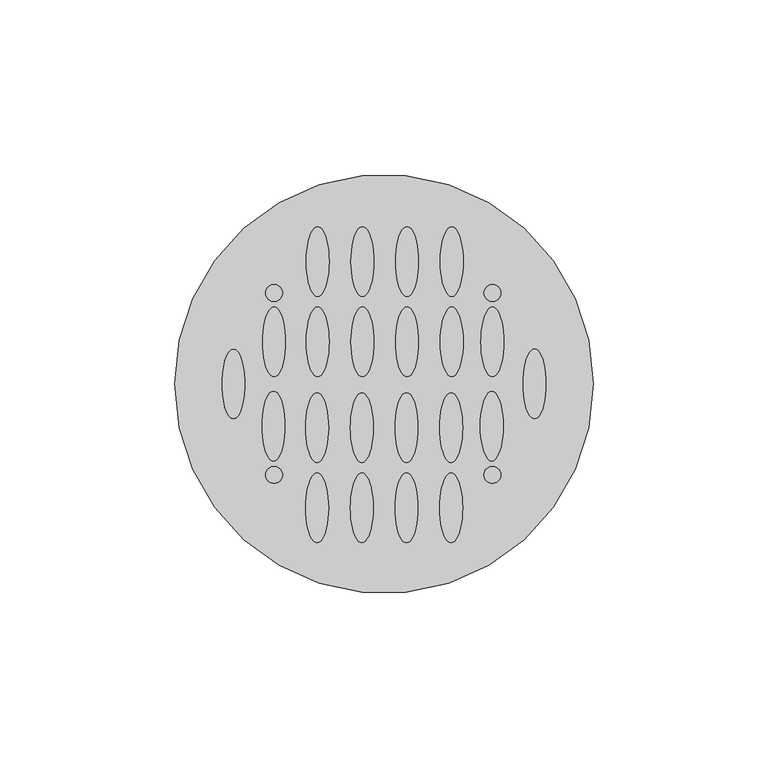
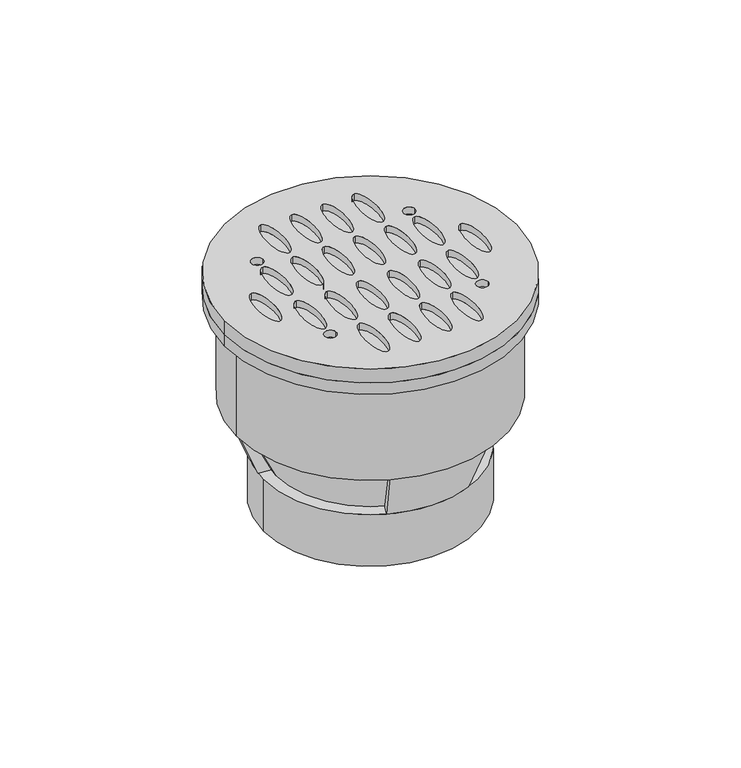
"""IFC4 building model written with IfcOpenShell, lengths in millimetres: pipe fitting geometry, AmancoWavin_Unionesdetubería_SanitarioPVCColaderaInstaRex : Cementar 110 mm."""

from ifc_helpers import new_model, si_unit, point, frame, origin, origin_with_axes, origin_2d, place, context, project, spatial, polyline, circle_curve, ellipse_curve, trimmed, segment, composite_curve, outline, extrude, source, transform, mapped, element, save
from ifc_brep_helpers import plane_surface, cylinder_surface, revolved_surface, extruded_surface, advanced_brep


def pipe_fitting_10ac5c91(model_context):
    return source(origin(), model_context, "Body", "SolidModel", [
        advanced_brep(
        [(-60.0, 0.0, 5.0), (60.0, 0.0, 5.0), (-60.0, 0.0, 11.0), (60.0, 0.0, 11.0), (-43.125, 10.0, 11.0), (-43.125, -10.0, 11.0), (-31.4848922, 22.0632684, 11.0), (-31.4848922, 2.0632684, 11.0), (-31.6489621, -2.0699379, 11.0), (-31.6489621, -22.0699379, 11.0), (-29.0574539, 26.0632635, 11.0), (-33.8998162, 26.0632635, 11.0), (-29.068906, -26.0667815, 11.0), (-33.9112683, -26.0667815, 11.0), (-18.9848922, 22.0632684, 11.0), (-18.9848922, 2.0632684, 11.0), (-19.1489621, -2.5, 11.0), (-19.1489621, -22.5, 11.0), (-18.9848922, 45.0632684, 11.0), (-18.9848922, 25.0632684, 11.0), (-19.1489621, -25.5, 11.0), (-19.1489621, -45.5, 11.0), (-6.1848922, 22.0632684, 11.0), (-6.1848922, 2.0632684, 11.0), (-6.3489621, -2.5, 11.0), (-6.3489621, -22.5, 11.0), (-6.1848922, 45.0632684, 11.0), (-6.1848922, 25.0632684, 11.0), (-6.3489621, -25.5, 11.0), (-6.3489621, -45.5, 11.0), (6.6151078, 22.0632684, 11.0), (6.6151078, 2.0632684, 11.0), (6.4510379, -2.5, 11.0), (6.4510379, -22.5, 11.0), (6.6151078, 45.0632684, 11.0), (6.6151078, 25.0632684, 11.0), (6.4510379, -25.5, 11.0), (6.4510379, -45.5, 11.0), (19.4151078, 22.0632684, 11.0), (19.4151078, 2.0632684, 11.0), (19.2510379, -2.5, 11.0), (19.2510379, -22.5, 11.0), (19.4151078, 45.0632684, 11.0), (19.4151078, 25.0632684, 11.0), (19.2510379, -25.5, 11.0), (19.2510379, -45.5, 11.0), (31.0501776, 22.0632684, 11.0), (31.0501776, 2.0632684, 11.0), (30.8861078, -2.0699379, 11.0), (30.8861078, -22.0699379, 11.0), (33.477616, 26.0632635, 11.0), (28.6352536, 26.0632635, 11.0), (33.4661638, -26.0667815, 11.0), (28.6238015, -26.0667815, 11.0), (43.1436396, 10.0, 11.0), (43.1436396, -10.0, 11.0), (-43.125, -10.0, 7.9881592), (-43.125, 10.0, 7.9881592), (-31.4848922, 2.0632684, 7.9881592), (-31.4848922, 22.0632684, 7.9881592), (-31.6489621, -22.0699379, 7.9881592), (-31.6489621, -2.0699379, 7.9881592), (-33.8998162, 26.0632635, 7.9881592), (-29.0574539, 26.0632635, 7.9881592), (-33.9112683, -26.0667815, 7.9881592), (-29.068906, -26.0667815, 7.9881592), (-18.9848922, 2.0632684, 7.9881592), (-18.9848922, 22.0632684, 7.9881592), (-19.1489621, -22.5, 7.9881592), (-19.1489621, -2.5, 7.9881592), (-18.9848922, 25.0632684, 7.9881592), (-18.9848922, 45.0632684, 7.9881592), (-19.1489621, -45.5, 7.9881592), (-19.1489621, -25.5, 7.9881592), (-6.1848922, 2.0632684, 7.9881592), (-6.1848922, 22.0632684, 7.9881592), (-6.3489621, -22.5, 7.9881592), (-6.3489621, -2.5, 7.9881592), (-6.1848922, 25.0632684, 7.9881592), (-6.1848922, 45.0632684, 7.9881592), (-6.3489621, -45.5, 7.9881592), (-6.3489621, -25.5, 7.9881592), (6.6151078, 2.0632684, 7.9881592), (6.6151078, 22.0632684, 7.9881592), (6.4510379, -22.5, 7.9881592), (6.4510379, -2.5, 7.9881592), (6.6151078, 25.0632684, 7.9881592), (6.6151078, 45.0632684, 7.9881592), (6.4510379, -45.5, 7.9881592), (6.4510379, -25.5, 7.9881592), (19.4151078, 2.0632684, 7.9881592), (19.4151078, 22.0632684, 7.9881592), (19.2510379, -22.5, 7.9881592), (19.2510379, -2.5, 7.9881592), (19.4151078, 25.0632684, 7.9881592), (19.4151078, 45.0632684, 7.9881592), (19.2510379, -45.5, 7.9881592), (19.2510379, -25.5, 7.9881592), (31.0501776, 2.0632684, 7.9881592), (31.0501776, 22.0632684, 7.9881592), (30.8861078, -22.0699379, 7.9881592), (30.8861078, -2.0699379, 7.9881592), (28.6352536, 26.0632635, 7.9881592), (33.477616, 26.0632635, 7.9881592), (28.6238015, -26.0667815, 7.9881592), (33.4661638, -26.0667815, 7.9881592), (43.1436396, -10.0, 7.9881592), (43.1436396, 10.0, 7.9881592)],
        [
            (0, 1, circle_curve(frame((0.0, 0.0, 5.0), z_axis=(0.0, 0.0, -1.0), x_axis=(1.0, 0.0, 0.0)), 60.0)),
            (1, 0, circle_curve(frame((0.0, 0.0, 5.0), z_axis=(0.0, 0.0, -1.0), x_axis=(1.0, 0.0, 0.0)), 60.0)),
            (2, 3, circle_curve(frame((0.0, 0.0, 11.0), z_axis=(0.0, 0.0, 1.0), x_axis=(1.0, 0.0, 0.0)), 60.0)),
            (3, 2, circle_curve(frame((0.0, 0.0, 11.0), z_axis=(0.0, 0.0, 1.0), x_axis=(1.0, 0.0, 0.0)), 60.0)),
            (4, 5, ellipse_curve(frame((-43.125, 0.0, 11.0), z_axis=(0.0, 0.0, -1.0), x_axis=(0.0, 1.0, 0.0)), 10.0, 3.2735089)),
            (5, 4, ellipse_curve(frame((-43.125, 0.0, 11.0), z_axis=(0.0, 0.0, -1.0), x_axis=(0.0, 1.0, 0.0)), 10.0, 3.2735089)),
            (6, 7, ellipse_curve(frame((-31.4848922, 12.0632684, 11.0), z_axis=(0.0, 0.0, -1.0), x_axis=(0.0, 1.0, 0.0)), 10.0, 3.2735089)),
            (7, 6, ellipse_curve(frame((-31.4848922, 12.0632684, 11.0), z_axis=(0.0, 0.0, -1.0), x_axis=(0.0, 1.0, 0.0)), 10.0, 3.2735089)),
            (8, 9, ellipse_curve(frame((-31.6489621, -12.0699379, 11.0), z_axis=(0.0, 0.0, -1.0), x_axis=(0.0, 1.0, 0.0)), 10.0, 3.2735089)),
            (9, 8, ellipse_curve(frame((-31.6489621, -12.0699379, 11.0), z_axis=(0.0, 0.0, -1.0), x_axis=(0.0, 1.0, 0.0)), 10.0, 3.2735089)),
            (10, 11, circle_curve(frame((-31.478635, 26.0632635, 11.0), z_axis=(0.0, 0.0, -1.0), x_axis=(1.0, 0.0, 0.0)), 2.4211812)),
            (11, 10, circle_curve(frame((-31.478635, 26.0632635, 11.0), z_axis=(0.0, 0.0, -1.0), x_axis=(1.0, 0.0, 0.0)), 2.4211812)),
            (12, 13, circle_curve(frame((-31.4900871, -26.0667815, 11.0), z_axis=(0.0, 0.0, -1.0), x_axis=(1.0, 0.0, 0.0)), 2.4211812)),
            (13, 12, circle_curve(frame((-31.4900871, -26.0667815, 11.0), z_axis=(0.0, 0.0, -1.0), x_axis=(1.0, 0.0, 0.0)), 2.4211812)),
            (14, 15, ellipse_curve(frame((-18.9848922, 12.0632684, 11.0), z_axis=(0.0, 0.0, -1.0), x_axis=(0.0, 1.0, 0.0)), 10.0, 3.2735089)),
            (15, 14, ellipse_curve(frame((-18.9848922, 12.0632684, 11.0), z_axis=(0.0, 0.0, -1.0), x_axis=(0.0, 1.0, 0.0)), 10.0, 3.2735089)),
            (16, 17, ellipse_curve(frame((-19.1489621, -12.5, 11.0), z_axis=(0.0, 0.0, -1.0), x_axis=(0.0, 1.0, 0.0)), 10.0, 3.2735089)),
            (17, 16, ellipse_curve(frame((-19.1489621, -12.5, 11.0), z_axis=(0.0, 0.0, -1.0), x_axis=(0.0, 1.0, 0.0)), 10.0, 3.2735089)),
            (18, 19, ellipse_curve(frame((-18.9848922, 35.0632684, 11.0), z_axis=(0.0, 0.0, -1.0), x_axis=(0.0, 1.0, 0.0)), 10.0, 3.2735089)),
            (19, 18, ellipse_curve(frame((-18.9848922, 35.0632684, 11.0), z_axis=(0.0, 0.0, -1.0), x_axis=(0.0, 1.0, 0.0)), 10.0, 3.2735089)),
            (20, 21, ellipse_curve(frame((-19.1489621, -35.5, 11.0), z_axis=(0.0, 0.0, -1.0), x_axis=(0.0, 1.0, 0.0)), 10.0, 3.2735089)),
            (21, 20, ellipse_curve(frame((-19.1489621, -35.5, 11.0), z_axis=(0.0, 0.0, -1.0), x_axis=(0.0, 1.0, 0.0)), 10.0, 3.2735089)),
            (22, 23, ellipse_curve(frame((-6.1848922, 12.0632684, 11.0), z_axis=(0.0, 0.0, -1.0), x_axis=(0.0, 1.0, 0.0)), 10.0, 3.2735089)),
            (23, 22, ellipse_curve(frame((-6.1848922, 12.0632684, 11.0), z_axis=(0.0, 0.0, -1.0), x_axis=(0.0, 1.0, 0.0)), 10.0, 3.2735089)),
            (24, 25, ellipse_curve(frame((-6.3489621, -12.5, 11.0), z_axis=(0.0, 0.0, -1.0), x_axis=(0.0, 1.0, 0.0)), 10.0, 3.2735089)),
            (25, 24, ellipse_curve(frame((-6.3489621, -12.5, 11.0), z_axis=(0.0, 0.0, -1.0), x_axis=(0.0, 1.0, 0.0)), 10.0, 3.2735089)),
            (26, 27, ellipse_curve(frame((-6.1848922, 35.0632684, 11.0), z_axis=(0.0, 0.0, -1.0), x_axis=(0.0, 1.0, 0.0)), 10.0, 3.2735089)),
            (27, 26, ellipse_curve(frame((-6.1848922, 35.0632684, 11.0), z_axis=(0.0, 0.0, -1.0), x_axis=(0.0, 1.0, 0.0)), 10.0, 3.2735089)),
            (28, 29, ellipse_curve(frame((-6.3489621, -35.5, 11.0), z_axis=(0.0, 0.0, -1.0), x_axis=(0.0, 1.0, 0.0)), 10.0, 3.2735089)),
            (29, 28, ellipse_curve(frame((-6.3489621, -35.5, 11.0), z_axis=(0.0, 0.0, -1.0), x_axis=(0.0, 1.0, 0.0)), 10.0, 3.2735089)),
            (30, 31, ellipse_curve(frame((6.6151078, 12.0632684, 11.0), z_axis=(0.0, 0.0, -1.0), x_axis=(0.0, 1.0, 0.0)), 10.0, 3.2735089)),
            (31, 30, ellipse_curve(frame((6.6151078, 12.0632684, 11.0), z_axis=(0.0, 0.0, -1.0), x_axis=(0.0, 1.0, 0.0)), 10.0, 3.2735089)),
            (32, 33, ellipse_curve(frame((6.4510379, -12.5, 11.0), z_axis=(0.0, 0.0, -1.0), x_axis=(0.0, 1.0, 0.0)), 10.0, 3.2735089)),
            (33, 32, ellipse_curve(frame((6.4510379, -12.5, 11.0), z_axis=(0.0, 0.0, -1.0), x_axis=(0.0, 1.0, 0.0)), 10.0, 3.2735089)),
            (34, 35, ellipse_curve(frame((6.6151078, 35.0632684, 11.0), z_axis=(0.0, 0.0, -1.0), x_axis=(0.0, 1.0, 0.0)), 10.0, 3.2735089)),
            (35, 34, ellipse_curve(frame((6.6151078, 35.0632684, 11.0), z_axis=(0.0, 0.0, -1.0), x_axis=(0.0, 1.0, 0.0)), 10.0, 3.2735089)),
            (36, 37, ellipse_curve(frame((6.4510379, -35.5, 11.0), z_axis=(0.0, 0.0, -1.0), x_axis=(0.0, 1.0, 0.0)), 10.0, 3.2735089)),
            (37, 36, ellipse_curve(frame((6.4510379, -35.5, 11.0), z_axis=(0.0, 0.0, -1.0), x_axis=(0.0, 1.0, 0.0)), 10.0, 3.2735089)),
            (38, 39, ellipse_curve(frame((19.4151078, 12.0632684, 11.0), z_axis=(0.0, 0.0, -1.0), x_axis=(0.0, 1.0, 0.0)), 10.0, 3.2735089)),
            (39, 38, ellipse_curve(frame((19.4151078, 12.0632684, 11.0), z_axis=(0.0, 0.0, -1.0), x_axis=(0.0, 1.0, 0.0)), 10.0, 3.2735089)),
            (40, 41, ellipse_curve(frame((19.2510379, -12.5, 11.0), z_axis=(0.0, 0.0, -1.0), x_axis=(0.0, 1.0, 0.0)), 10.0, 3.2735089)),
            (41, 40, ellipse_curve(frame((19.2510379, -12.5, 11.0), z_axis=(0.0, 0.0, -1.0), x_axis=(0.0, 1.0, 0.0)), 10.0, 3.2735089)),
            (42, 43, ellipse_curve(frame((19.4151078, 35.0632684, 11.0), z_axis=(0.0, 0.0, -1.0), x_axis=(0.0, 1.0, 0.0)), 10.0, 3.2735089)),
            (43, 42, ellipse_curve(frame((19.4151078, 35.0632684, 11.0), z_axis=(0.0, 0.0, -1.0), x_axis=(0.0, 1.0, 0.0)), 10.0, 3.2735089)),
            (44, 45, ellipse_curve(frame((19.2510379, -35.5, 11.0), z_axis=(0.0, 0.0, -1.0), x_axis=(0.0, 1.0, 0.0)), 10.0, 3.2735089)),
            (45, 44, ellipse_curve(frame((19.2510379, -35.5, 11.0), z_axis=(0.0, 0.0, -1.0), x_axis=(0.0, 1.0, 0.0)), 10.0, 3.2735089)),
            (46, 47, ellipse_curve(frame((31.0501776, 12.0632684, 11.0), z_axis=(0.0, 0.0, -1.0), x_axis=(0.0, 1.0, 0.0)), 10.0, 3.2735089)),
            (47, 46, ellipse_curve(frame((31.0501776, 12.0632684, 11.0), z_axis=(0.0, 0.0, -1.0), x_axis=(0.0, 1.0, 0.0)), 10.0, 3.2735089)),
            (48, 49, ellipse_curve(frame((30.8861078, -12.0699379, 11.0), z_axis=(0.0, 0.0, -1.0), x_axis=(0.0, 1.0, 0.0)), 10.0, 3.2735089)),
            (49, 48, ellipse_curve(frame((30.8861078, -12.0699379, 11.0), z_axis=(0.0, 0.0, -1.0), x_axis=(0.0, 1.0, 0.0)), 10.0, 3.2735089)),
            (50, 51, circle_curve(frame((31.0564348, 26.0632635, 11.0), z_axis=(0.0, 0.0, -1.0), x_axis=(1.0, 0.0, 0.0)), 2.4211812)),
            (51, 50, circle_curve(frame((31.0564348, 26.0632635, 11.0), z_axis=(0.0, 0.0, -1.0), x_axis=(1.0, 0.0, 0.0)), 2.4211812)),
            (52, 53, circle_curve(frame((31.0449827, -26.0667815, 11.0), z_axis=(0.0, 0.0, -1.0), x_axis=(1.0, 0.0, 0.0)), 2.4211812)),
            (53, 52, circle_curve(frame((31.0449827, -26.0667815, 11.0), z_axis=(0.0, 0.0, -1.0), x_axis=(1.0, 0.0, 0.0)), 2.4211812)),
            (54, 55, ellipse_curve(frame((43.1436396, 0.0, 11.0), z_axis=(0.0, 0.0, -1.0), x_axis=(0.0, 1.0, 0.0)), 10.0, 3.2735089)),
            (55, 54, ellipse_curve(frame((43.1436396, 0.0, 11.0), z_axis=(0.0, 0.0, -1.0), x_axis=(0.0, 1.0, 0.0)), 10.0, 3.2735089)),
            (1, 3),
            (2, 0),
            (56, 57, ellipse_curve(frame((-43.125, 0.0, 7.9881592), z_axis=(0.0, 0.0, 1.0), x_axis=(0.0, 1.0, 0.0)), 10.0, 3.2735089)),
            (57, 56, ellipse_curve(frame((-43.125, 0.0, 7.9881592), z_axis=(0.0, 0.0, 1.0), x_axis=(0.0, 1.0, 0.0)), 10.0, 3.2735089)),
            (58, 59, ellipse_curve(frame((-31.4848922, 12.0632684, 7.9881592), z_axis=(0.0, 0.0, 1.0), x_axis=(0.0, 1.0, 0.0)), 10.0, 3.2735089)),
            (59, 58, ellipse_curve(frame((-31.4848922, 12.0632684, 7.9881592), z_axis=(0.0, 0.0, 1.0), x_axis=(0.0, 1.0, 0.0)), 10.0, 3.2735089)),
            (60, 61, ellipse_curve(frame((-31.6489621, -12.0699379, 7.9881592), z_axis=(0.0, 0.0, 1.0), x_axis=(0.0, 1.0, 0.0)), 10.0, 3.2735089)),
            (61, 60, ellipse_curve(frame((-31.6489621, -12.0699379, 7.9881592), z_axis=(0.0, 0.0, 1.0), x_axis=(0.0, 1.0, 0.0)), 10.0, 3.2735089)),
            (62, 63, circle_curve(frame((-31.478635, 26.0632635, 7.9881592), z_axis=(0.0, 0.0, 1.0), x_axis=(1.0, 0.0, 0.0)), 2.4211812)),
            (63, 62, circle_curve(frame((-31.478635, 26.0632635, 7.9881592), z_axis=(0.0, 0.0, 1.0), x_axis=(1.0, 0.0, 0.0)), 2.4211812)),
            (64, 65, circle_curve(frame((-31.4900871, -26.0667815, 7.9881592), z_axis=(0.0, 0.0, 1.0), x_axis=(1.0, 0.0, 0.0)), 2.4211812)),
            (65, 64, circle_curve(frame((-31.4900871, -26.0667815, 7.9881592), z_axis=(0.0, 0.0, 1.0), x_axis=(1.0, 0.0, 0.0)), 2.4211812)),
            (66, 67, ellipse_curve(frame((-18.9848922, 12.0632684, 7.9881592), z_axis=(0.0, 0.0, 1.0), x_axis=(0.0, 1.0, 0.0)), 10.0, 3.2735089)),
            (67, 66, ellipse_curve(frame((-18.9848922, 12.0632684, 7.9881592), z_axis=(0.0, 0.0, 1.0), x_axis=(0.0, 1.0, 0.0)), 10.0, 3.2735089)),
            (68, 69, ellipse_curve(frame((-19.1489621, -12.5, 7.9881592), z_axis=(0.0, 0.0, 1.0), x_axis=(0.0, 1.0, 0.0)), 10.0, 3.2735089)),
            (69, 68, ellipse_curve(frame((-19.1489621, -12.5, 7.9881592), z_axis=(0.0, 0.0, 1.0), x_axis=(0.0, 1.0, 0.0)), 10.0, 3.2735089)),
            (70, 71, ellipse_curve(frame((-18.9848922, 35.0632684, 7.9881592), z_axis=(0.0, 0.0, 1.0), x_axis=(0.0, 1.0, 0.0)), 10.0, 3.2735089)),
            (71, 70, ellipse_curve(frame((-18.9848922, 35.0632684, 7.9881592), z_axis=(0.0, 0.0, 1.0), x_axis=(0.0, 1.0, 0.0)), 10.0, 3.2735089)),
            (72, 73, ellipse_curve(frame((-19.1489621, -35.5, 7.9881592), z_axis=(0.0, 0.0, 1.0), x_axis=(0.0, 1.0, 0.0)), 10.0, 3.2735089)),
            (73, 72, ellipse_curve(frame((-19.1489621, -35.5, 7.9881592), z_axis=(0.0, 0.0, 1.0), x_axis=(0.0, 1.0, 0.0)), 10.0, 3.2735089)),
            (74, 75, ellipse_curve(frame((-6.1848922, 12.0632684, 7.9881592), z_axis=(0.0, 0.0, 1.0), x_axis=(0.0, 1.0, 0.0)), 10.0, 3.2735089)),
            (75, 74, ellipse_curve(frame((-6.1848922, 12.0632684, 7.9881592), z_axis=(0.0, 0.0, 1.0), x_axis=(0.0, 1.0, 0.0)), 10.0, 3.2735089)),
            (76, 77, ellipse_curve(frame((-6.3489621, -12.5, 7.9881592), z_axis=(0.0, 0.0, 1.0), x_axis=(0.0, 1.0, 0.0)), 10.0, 3.2735089)),
            (77, 76, ellipse_curve(frame((-6.3489621, -12.5, 7.9881592), z_axis=(0.0, 0.0, 1.0), x_axis=(0.0, 1.0, 0.0)), 10.0, 3.2735089)),
            (78, 79, ellipse_curve(frame((-6.1848922, 35.0632684, 7.9881592), z_axis=(0.0, 0.0, 1.0), x_axis=(0.0, 1.0, 0.0)), 10.0, 3.2735089)),
            (79, 78, ellipse_curve(frame((-6.1848922, 35.0632684, 7.9881592), z_axis=(0.0, 0.0, 1.0), x_axis=(0.0, 1.0, 0.0)), 10.0, 3.2735089)),
            (80, 81, ellipse_curve(frame((-6.3489621, -35.5, 7.9881592), z_axis=(0.0, 0.0, 1.0), x_axis=(0.0, 1.0, 0.0)), 10.0, 3.2735089)),
            (81, 80, ellipse_curve(frame((-6.3489621, -35.5, 7.9881592), z_axis=(0.0, 0.0, 1.0), x_axis=(0.0, 1.0, 0.0)), 10.0, 3.2735089)),
            (82, 83, ellipse_curve(frame((6.6151078, 12.0632684, 7.9881592), z_axis=(0.0, 0.0, 1.0), x_axis=(0.0, 1.0, 0.0)), 10.0, 3.2735089)),
            (83, 82, ellipse_curve(frame((6.6151078, 12.0632684, 7.9881592), z_axis=(0.0, 0.0, 1.0), x_axis=(0.0, 1.0, 0.0)), 10.0, 3.2735089)),
            (84, 85, ellipse_curve(frame((6.4510379, -12.5, 7.9881592), z_axis=(0.0, 0.0, 1.0), x_axis=(0.0, 1.0, 0.0)), 10.0, 3.2735089)),
            (85, 84, ellipse_curve(frame((6.4510379, -12.5, 7.9881592), z_axis=(0.0, 0.0, 1.0), x_axis=(0.0, 1.0, 0.0)), 10.0, 3.2735089)),
            (86, 87, ellipse_curve(frame((6.6151078, 35.0632684, 7.9881592), z_axis=(0.0, 0.0, 1.0), x_axis=(0.0, 1.0, 0.0)), 10.0, 3.2735089)),
            (87, 86, ellipse_curve(frame((6.6151078, 35.0632684, 7.9881592), z_axis=(0.0, 0.0, 1.0), x_axis=(0.0, 1.0, 0.0)), 10.0, 3.2735089)),
            (88, 89, ellipse_curve(frame((6.4510379, -35.5, 7.9881592), z_axis=(0.0, 0.0, 1.0), x_axis=(0.0, 1.0, 0.0)), 10.0, 3.2735089)),
            (89, 88, ellipse_curve(frame((6.4510379, -35.5, 7.9881592), z_axis=(0.0, 0.0, 1.0), x_axis=(0.0, 1.0, 0.0)), 10.0, 3.2735089)),
            (90, 91, ellipse_curve(frame((19.4151078, 12.0632684, 7.9881592), z_axis=(0.0, 0.0, 1.0), x_axis=(0.0, 1.0, 0.0)), 10.0, 3.2735089)),
            (91, 90, ellipse_curve(frame((19.4151078, 12.0632684, 7.9881592), z_axis=(0.0, 0.0, 1.0), x_axis=(0.0, 1.0, 0.0)), 10.0, 3.2735089)),
            (92, 93, ellipse_curve(frame((19.2510379, -12.5, 7.9881592), z_axis=(0.0, 0.0, 1.0), x_axis=(0.0, 1.0, 0.0)), 10.0, 3.2735089)),
            (93, 92, ellipse_curve(frame((19.2510379, -12.5, 7.9881592), z_axis=(0.0, 0.0, 1.0), x_axis=(0.0, 1.0, 0.0)), 10.0, 3.2735089)),
            (94, 95, ellipse_curve(frame((19.4151078, 35.0632684, 7.9881592), z_axis=(0.0, 0.0, 1.0), x_axis=(0.0, 1.0, 0.0)), 10.0, 3.2735089)),
            (95, 94, ellipse_curve(frame((19.4151078, 35.0632684, 7.9881592), z_axis=(0.0, 0.0, 1.0), x_axis=(0.0, 1.0, 0.0)), 10.0, 3.2735089)),
            (96, 97, ellipse_curve(frame((19.2510379, -35.5, 7.9881592), z_axis=(0.0, 0.0, 1.0), x_axis=(0.0, 1.0, 0.0)), 10.0, 3.2735089)),
            (97, 96, ellipse_curve(frame((19.2510379, -35.5, 7.9881592), z_axis=(0.0, 0.0, 1.0), x_axis=(0.0, 1.0, 0.0)), 10.0, 3.2735089)),
            (98, 99, ellipse_curve(frame((31.0501776, 12.0632684, 7.9881592), z_axis=(0.0, 0.0, 1.0), x_axis=(0.0, 1.0, 0.0)), 10.0, 3.2735089)),
            (99, 98, ellipse_curve(frame((31.0501776, 12.0632684, 7.9881592), z_axis=(0.0, 0.0, 1.0), x_axis=(0.0, 1.0, 0.0)), 10.0, 3.2735089)),
            (100, 101, ellipse_curve(frame((30.8861078, -12.0699379, 7.9881592), z_axis=(0.0, 0.0, 1.0), x_axis=(0.0, 1.0, 0.0)), 10.0, 3.2735089)),
            (101, 100, ellipse_curve(frame((30.8861078, -12.0699379, 7.9881592), z_axis=(0.0, 0.0, 1.0), x_axis=(0.0, 1.0, 0.0)), 10.0, 3.2735089)),
            (102, 103, circle_curve(frame((31.0564348, 26.0632635, 7.9881592), z_axis=(0.0, 0.0, 1.0), x_axis=(1.0, 0.0, 0.0)), 2.4211812)),
            (103, 102, circle_curve(frame((31.0564348, 26.0632635, 7.9881592), z_axis=(0.0, 0.0, 1.0), x_axis=(1.0, 0.0, 0.0)), 2.4211812)),
            (104, 105, circle_curve(frame((31.0449827, -26.0667815, 7.9881592), z_axis=(0.0, 0.0, 1.0), x_axis=(1.0, 0.0, 0.0)), 2.4211812)),
            (105, 104, circle_curve(frame((31.0449827, -26.0667815, 7.9881592), z_axis=(0.0, 0.0, 1.0), x_axis=(1.0, 0.0, 0.0)), 2.4211812)),
            (106, 107, ellipse_curve(frame((43.1436396, 0.0, 7.9881592), z_axis=(0.0, 0.0, 1.0), x_axis=(0.0, 1.0, 0.0)), 10.0, 3.2735089)),
            (107, 106, ellipse_curve(frame((43.1436396, 0.0, 7.9881592), z_axis=(0.0, 0.0, 1.0), x_axis=(0.0, 1.0, 0.0)), 10.0, 3.2735089)),
            (56, 5),
            (4, 57),
            (58, 7),
            (6, 59),
            (60, 9),
            (8, 61),
            (62, 11),
            (10, 63),
            (64, 13),
            (12, 65),
            (66, 15),
            (14, 67),
            (68, 17),
            (16, 69),
            (70, 19),
            (18, 71),
            (72, 21),
            (20, 73),
            (74, 23),
            (22, 75),
            (76, 25),
            (24, 77),
            (78, 27),
            (26, 79),
            (80, 29),
            (28, 81),
            (82, 31),
            (30, 83),
            (84, 33),
            (32, 85),
            (86, 35),
            (34, 87),
            (88, 37),
            (36, 89),
            (90, 39),
            (38, 91),
            (92, 41),
            (40, 93),
            (94, 43),
            (42, 95),
            (96, 45),
            (44, 97),
            (98, 47),
            (46, 99),
            (100, 49),
            (48, 101),
            (102, 51),
            (50, 103),
            (104, 53),
            (52, 105),
            (106, 55),
            (54, 107),
        ],
        [
            plane_surface(frame((60.0, 0.0, 5.0), z_axis=(0.0, 0.0, -1.0), x_axis=(0.0, -1.0, 0.0))),
            plane_surface(frame((60.0, 0.0, 11.0), z_axis=(0.0, 0.0, 1.0), x_axis=(0.0, 1.0, 0.0))),
            cylinder_surface(frame((0.0, 0.0, 5.0), z_axis=(0.0, 0.0, 1.0), x_axis=(1.0, 0.0, 0.0)), 60.0),
            plane_surface(frame((-43.125, 10.0, 7.9881592), z_axis=(0.0, 0.0, 1.0), x_axis=(1.0, 0.0, 0.0))),
            extruded_surface(trimmed(ellipse_curve(frame((-43.125, 0.0, 7.9881592), z_axis=(0.0, 0.0, 1.0), x_axis=(0.0, 1.0, 0.0)), 10.0, 3.2735089), [point((-43.125, -10.0, 7.9881592))], [point((-43.125, 10.0, 7.9881592))], True, "CARTESIAN"), (0.0, 0.0, -3.0118408), 3.0118408),
            extruded_surface(trimmed(ellipse_curve(frame((-43.125, 0.0, 7.9881592), z_axis=(0.0, 0.0, 1.0), x_axis=(0.0, 1.0, 0.0)), 10.0, 3.2735089), [point((-43.125, 10.0, 7.9881592))], [point((-43.125, -10.0, 7.9881592))], True, "CARTESIAN"), (0.0, 0.0, -3.0118408), 3.0118408),
            extruded_surface(trimmed(ellipse_curve(frame((-31.4848922, 12.0632684, 11.0), z_axis=(0.0, 0.0, 1.0), x_axis=(0.0, 1.0, 0.0)), 10.0, 3.2735089), [point((-31.4848922, 2.0632684, 11.0))], [point((-31.4848922, 22.0632684, 11.0))], True, "CARTESIAN"), (0.0, 0.0, -3.0118408), 3.0118408),
            extruded_surface(trimmed(ellipse_curve(frame((-31.4848922, 12.0632684, 11.0), z_axis=(0.0, 0.0, 1.0), x_axis=(0.0, 1.0, 0.0)), 10.0, 3.2735089), [point((-31.4848922, 22.0632684, 11.0))], [point((-31.4848922, 2.0632684, 11.0))], True, "CARTESIAN"), (0.0, 0.0, -3.0118408), 3.0118408),
            extruded_surface(trimmed(ellipse_curve(frame((-31.6489621, -12.0699379, 11.0), z_axis=(0.0, 0.0, 1.0), x_axis=(0.0, 1.0, 0.0)), 10.0, 3.2735089), [point((-31.6489621, -22.0699379, 11.0))], [point((-31.6489621, -2.0699379, 11.0))], True, "CARTESIAN"), (0.0, 0.0, -3.0118408), 3.0118408),
            extruded_surface(trimmed(ellipse_curve(frame((-31.6489621, -12.0699379, 11.0), z_axis=(0.0, 0.0, 1.0), x_axis=(0.0, 1.0, 0.0)), 10.0, 3.2735089), [point((-31.6489621, -2.0699379, 11.0))], [point((-31.6489621, -22.0699379, 11.0))], True, "CARTESIAN"), (0.0, 0.0, -3.0118408), 3.0118408),
            revolved_surface(polyline([(-29.0574538, 26.0632635, 11.0), (-29.0574538, 26.0632635, 7.9881592)]), (-31.478635, 26.0632635, 11.0), (0.0, 0.0, 1.0)),
            revolved_surface(polyline([(-29.0689059, -26.0667815, 11.0), (-29.0689059, -26.0667815, 7.9881592)]), (-31.4900871, -26.0667815, 11.0), (0.0, 0.0, 1.0)),
            extruded_surface(trimmed(ellipse_curve(frame((-18.9848922, 12.0632684, 11.0), z_axis=(0.0, 0.0, 1.0), x_axis=(0.0, 1.0, 0.0)), 10.0, 3.2735089), [point((-18.9848922, 2.0632684, 11.0))], [point((-18.9848922, 22.0632684, 11.0))], True, "CARTESIAN"), (0.0, 0.0, -3.0118408), 3.0118408),
            extruded_surface(trimmed(ellipse_curve(frame((-18.9848922, 12.0632684, 11.0), z_axis=(0.0, 0.0, 1.0), x_axis=(0.0, 1.0, 0.0)), 10.0, 3.2735089), [point((-18.9848922, 22.0632684, 11.0))], [point((-18.9848922, 2.0632684, 11.0))], True, "CARTESIAN"), (0.0, 0.0, -3.0118408), 3.0118408),
            extruded_surface(trimmed(ellipse_curve(frame((-19.1489621, -12.5, 11.0), z_axis=(0.0, 0.0, 1.0), x_axis=(0.0, 1.0, 0.0)), 10.0, 3.2735089), [point((-19.1489621, -22.5, 11.0))], [point((-19.1489621, -2.5, 11.0))], True, "CARTESIAN"), (0.0, 0.0, -3.0118408), 3.0118408),
            extruded_surface(trimmed(ellipse_curve(frame((-19.1489621, -12.5, 11.0), z_axis=(0.0, 0.0, 1.0), x_axis=(0.0, 1.0, 0.0)), 10.0, 3.2735089), [point((-19.1489621, -2.5, 11.0))], [point((-19.1489621, -22.5, 11.0))], True, "CARTESIAN"), (0.0, 0.0, -3.0118408), 3.0118408),
            extruded_surface(trimmed(ellipse_curve(frame((-18.9848922, 35.0632684, 11.0), z_axis=(0.0, 0.0, 1.0), x_axis=(0.0, 1.0, 0.0)), 10.0, 3.2735089), [point((-18.9848922, 25.0632684, 11.0))], [point((-18.9848922, 45.0632684, 11.0))], True, "CARTESIAN"), (0.0, 0.0, -3.0118408), 3.0118408),
            extruded_surface(trimmed(ellipse_curve(frame((-18.9848922, 35.0632684, 11.0), z_axis=(0.0, 0.0, 1.0), x_axis=(0.0, 1.0, 0.0)), 10.0, 3.2735089), [point((-18.9848922, 45.0632684, 11.0))], [point((-18.9848922, 25.0632684, 11.0))], True, "CARTESIAN"), (0.0, 0.0, -3.0118408), 3.0118408),
            extruded_surface(trimmed(ellipse_curve(frame((-19.1489621, -35.5, 11.0), z_axis=(0.0, 0.0, 1.0), x_axis=(0.0, 1.0, 0.0)), 10.0, 3.2735089), [point((-19.1489621, -45.5, 11.0))], [point((-19.1489621, -25.5, 11.0))], True, "CARTESIAN"), (0.0, 0.0, -3.0118408), 3.0118408),
            extruded_surface(trimmed(ellipse_curve(frame((-19.1489621, -35.5, 11.0), z_axis=(0.0, 0.0, 1.0), x_axis=(0.0, 1.0, 0.0)), 10.0, 3.2735089), [point((-19.1489621, -25.5, 11.0))], [point((-19.1489621, -45.5, 11.0))], True, "CARTESIAN"), (0.0, 0.0, -3.0118408), 3.0118408),
            extruded_surface(trimmed(ellipse_curve(frame((-6.1848922, 12.0632684, 11.0), z_axis=(0.0, 0.0, 1.0), x_axis=(0.0, 1.0, 0.0)), 10.0, 3.2735089), [point((-6.1848922, 2.0632684, 11.0))], [point((-6.1848922, 22.0632684, 11.0))], True, "CARTESIAN"), (0.0, 0.0, -3.0118408), 3.0118408),
            extruded_surface(trimmed(ellipse_curve(frame((-6.1848922, 12.0632684, 11.0), z_axis=(0.0, 0.0, 1.0), x_axis=(0.0, 1.0, 0.0)), 10.0, 3.2735089), [point((-6.1848922, 22.0632684, 11.0))], [point((-6.1848922, 2.0632684, 11.0))], True, "CARTESIAN"), (0.0, 0.0, -3.0118408), 3.0118408),
            extruded_surface(trimmed(ellipse_curve(frame((-6.3489621, -12.5, 11.0), z_axis=(0.0, 0.0, 1.0), x_axis=(0.0, 1.0, 0.0)), 10.0, 3.2735089), [point((-6.3489621, -22.5, 11.0))], [point((-6.3489621, -2.5, 11.0))], True, "CARTESIAN"), (0.0, 0.0, -3.0118408), 3.0118408),
            extruded_surface(trimmed(ellipse_curve(frame((-6.3489621, -12.5, 11.0), z_axis=(0.0, 0.0, 1.0), x_axis=(0.0, 1.0, 0.0)), 10.0, 3.2735089), [point((-6.3489621, -2.5, 11.0))], [point((-6.3489621, -22.5, 11.0))], True, "CARTESIAN"), (0.0, 0.0, -3.0118408), 3.0118408),
            extruded_surface(trimmed(ellipse_curve(frame((-6.1848922, 35.0632684, 11.0), z_axis=(0.0, 0.0, 1.0), x_axis=(0.0, 1.0, 0.0)), 10.0, 3.2735089), [point((-6.1848922, 25.0632684, 11.0))], [point((-6.1848922, 45.0632684, 11.0))], True, "CARTESIAN"), (0.0, 0.0, -3.0118408), 3.0118408),
            extruded_surface(trimmed(ellipse_curve(frame((-6.1848922, 35.0632684, 11.0), z_axis=(0.0, 0.0, 1.0), x_axis=(0.0, 1.0, 0.0)), 10.0, 3.2735089), [point((-6.1848922, 45.0632684, 11.0))], [point((-6.1848922, 25.0632684, 11.0))], True, "CARTESIAN"), (0.0, 0.0, -3.0118408), 3.0118408),
            extruded_surface(trimmed(ellipse_curve(frame((-6.3489621, -35.5, 11.0), z_axis=(0.0, 0.0, 1.0), x_axis=(0.0, 1.0, 0.0)), 10.0, 3.2735089), [point((-6.3489621, -45.5, 11.0))], [point((-6.3489621, -25.5, 11.0))], True, "CARTESIAN"), (0.0, 0.0, -3.0118408), 3.0118408),
            extruded_surface(trimmed(ellipse_curve(frame((-6.3489621, -35.5, 11.0), z_axis=(0.0, 0.0, 1.0), x_axis=(0.0, 1.0, 0.0)), 10.0, 3.2735089), [point((-6.3489621, -25.5, 11.0))], [point((-6.3489621, -45.5, 11.0))], True, "CARTESIAN"), (0.0, 0.0, -3.0118408), 3.0118408),
            extruded_surface(trimmed(ellipse_curve(frame((6.6151078, 12.0632684, 11.0), z_axis=(0.0, 0.0, 1.0), x_axis=(0.0, 1.0, 0.0)), 10.0, 3.2735089), [point((6.6151078, 2.0632684, 11.0))], [point((6.6151078, 22.0632684, 11.0))], True, "CARTESIAN"), (0.0, 0.0, -3.0118408), 3.0118408),
            extruded_surface(trimmed(ellipse_curve(frame((6.6151078, 12.0632684, 11.0), z_axis=(0.0, 0.0, 1.0), x_axis=(0.0, 1.0, 0.0)), 10.0, 3.2735089), [point((6.6151078, 22.0632684, 11.0))], [point((6.6151078, 2.0632684, 11.0))], True, "CARTESIAN"), (0.0, 0.0, -3.0118408), 3.0118408),
            extruded_surface(trimmed(ellipse_curve(frame((6.4510379, -12.5, 11.0), z_axis=(0.0, 0.0, 1.0), x_axis=(0.0, 1.0, 0.0)), 10.0, 3.2735089), [point((6.4510379, -22.5, 11.0))], [point((6.4510379, -2.5, 11.0))], True, "CARTESIAN"), (0.0, 0.0, -3.0118408), 3.0118408),
            extruded_surface(trimmed(ellipse_curve(frame((6.4510379, -12.5, 11.0), z_axis=(0.0, 0.0, 1.0), x_axis=(0.0, 1.0, 0.0)), 10.0, 3.2735089), [point((6.4510379, -2.5, 11.0))], [point((6.4510379, -22.5, 11.0))], True, "CARTESIAN"), (0.0, 0.0, -3.0118408), 3.0118408),
            extruded_surface(trimmed(ellipse_curve(frame((6.6151078, 35.0632684, 11.0), z_axis=(0.0, 0.0, 1.0), x_axis=(0.0, 1.0, 0.0)), 10.0, 3.2735089), [point((6.6151078, 25.0632684, 11.0))], [point((6.6151078, 45.0632684, 11.0))], True, "CARTESIAN"), (0.0, 0.0, -3.0118408), 3.0118408),
            extruded_surface(trimmed(ellipse_curve(frame((6.6151078, 35.0632684, 11.0), z_axis=(0.0, 0.0, 1.0), x_axis=(0.0, 1.0, 0.0)), 10.0, 3.2735089), [point((6.6151078, 45.0632684, 11.0))], [point((6.6151078, 25.0632684, 11.0))], True, "CARTESIAN"), (0.0, 0.0, -3.0118408), 3.0118408),
            extruded_surface(trimmed(ellipse_curve(frame((6.4510379, -35.5, 11.0), z_axis=(0.0, 0.0, 1.0), x_axis=(0.0, 1.0, 0.0)), 10.0, 3.2735089), [point((6.4510379, -45.5, 11.0))], [point((6.4510379, -25.5, 11.0))], True, "CARTESIAN"), (0.0, 0.0, -3.0118408), 3.0118408),
            extruded_surface(trimmed(ellipse_curve(frame((6.4510379, -35.5, 11.0), z_axis=(0.0, 0.0, 1.0), x_axis=(0.0, 1.0, 0.0)), 10.0, 3.2735089), [point((6.4510379, -25.5, 11.0))], [point((6.4510379, -45.5, 11.0))], True, "CARTESIAN"), (0.0, 0.0, -3.0118408), 3.0118408),
            extruded_surface(trimmed(ellipse_curve(frame((19.4151078, 12.0632684, 11.0), z_axis=(0.0, 0.0, 1.0), x_axis=(0.0, 1.0, 0.0)), 10.0, 3.2735089), [point((19.4151078, 2.0632684, 11.0))], [point((19.4151078, 22.0632684, 11.0))], True, "CARTESIAN"), (0.0, 0.0, -3.0118408), 3.0118408),
            extruded_surface(trimmed(ellipse_curve(frame((19.4151078, 12.0632684, 11.0), z_axis=(0.0, 0.0, 1.0), x_axis=(0.0, 1.0, 0.0)), 10.0, 3.2735089), [point((19.4151078, 22.0632684, 11.0))], [point((19.4151078, 2.0632684, 11.0))], True, "CARTESIAN"), (0.0, 0.0, -3.0118408), 3.0118408),
            extruded_surface(trimmed(ellipse_curve(frame((19.2510379, -12.5, 11.0), z_axis=(0.0, 0.0, 1.0), x_axis=(0.0, 1.0, 0.0)), 10.0, 3.2735089), [point((19.2510379, -22.5, 11.0))], [point((19.2510379, -2.5, 11.0))], True, "CARTESIAN"), (0.0, 0.0, -3.0118408), 3.0118408),
            extruded_surface(trimmed(ellipse_curve(frame((19.2510379, -12.5, 11.0), z_axis=(0.0, 0.0, 1.0), x_axis=(0.0, 1.0, 0.0)), 10.0, 3.2735089), [point((19.2510379, -2.5, 11.0))], [point((19.2510379, -22.5, 11.0))], True, "CARTESIAN"), (0.0, 0.0, -3.0118408), 3.0118408),
            extruded_surface(trimmed(ellipse_curve(frame((19.4151078, 35.0632684, 11.0), z_axis=(0.0, 0.0, 1.0), x_axis=(0.0, 1.0, 0.0)), 10.0, 3.2735089), [point((19.4151078, 25.0632684, 11.0))], [point((19.4151078, 45.0632684, 11.0))], True, "CARTESIAN"), (0.0, 0.0, -3.0118408), 3.0118408),
            extruded_surface(trimmed(ellipse_curve(frame((19.4151078, 35.0632684, 11.0), z_axis=(0.0, 0.0, 1.0), x_axis=(0.0, 1.0, 0.0)), 10.0, 3.2735089), [point((19.4151078, 45.0632684, 11.0))], [point((19.4151078, 25.0632684, 11.0))], True, "CARTESIAN"), (0.0, 0.0, -3.0118408), 3.0118408),
            extruded_surface(trimmed(ellipse_curve(frame((19.2510379, -35.5, 11.0), z_axis=(0.0, 0.0, 1.0), x_axis=(0.0, 1.0, 0.0)), 10.0, 3.2735089), [point((19.2510379, -45.5, 11.0))], [point((19.2510379, -25.5, 11.0))], True, "CARTESIAN"), (0.0, 0.0, -3.0118408), 3.0118408),
            extruded_surface(trimmed(ellipse_curve(frame((19.2510379, -35.5, 11.0), z_axis=(0.0, 0.0, 1.0), x_axis=(0.0, 1.0, 0.0)), 10.0, 3.2735089), [point((19.2510379, -25.5, 11.0))], [point((19.2510379, -45.5, 11.0))], True, "CARTESIAN"), (0.0, 0.0, -3.0118408), 3.0118408),
            extruded_surface(trimmed(ellipse_curve(frame((31.0501776, 12.0632684, 11.0), z_axis=(0.0, 0.0, 1.0), x_axis=(0.0, 1.0, 0.0)), 10.0, 3.2735089), [point((31.0501776, 2.0632684, 11.0))], [point((31.0501776, 22.0632684, 11.0))], True, "CARTESIAN"), (0.0, 0.0, -3.0118408), 3.0118408),
            extruded_surface(trimmed(ellipse_curve(frame((31.0501776, 12.0632684, 11.0), z_axis=(0.0, 0.0, 1.0), x_axis=(0.0, 1.0, 0.0)), 10.0, 3.2735089), [point((31.0501776, 22.0632684, 11.0))], [point((31.0501776, 2.0632684, 11.0))], True, "CARTESIAN"), (0.0, 0.0, -3.0118408), 3.0118408),
            extruded_surface(trimmed(ellipse_curve(frame((30.8861078, -12.0699379, 11.0), z_axis=(0.0, 0.0, 1.0), x_axis=(0.0, 1.0, 0.0)), 10.0, 3.2735089), [point((30.8861078, -22.0699379, 11.0))], [point((30.8861078, -2.0699379, 11.0))], True, "CARTESIAN"), (0.0, 0.0, -3.0118408), 3.0118408),
            extruded_surface(trimmed(ellipse_curve(frame((30.8861078, -12.0699379, 11.0), z_axis=(0.0, 0.0, 1.0), x_axis=(0.0, 1.0, 0.0)), 10.0, 3.2735089), [point((30.8861078, -2.0699379, 11.0))], [point((30.8861078, -22.0699379, 11.0))], True, "CARTESIAN"), (0.0, 0.0, -3.0118408), 3.0118408),
            revolved_surface(polyline([(33.477616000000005, 26.0632635, 11.0), (33.477616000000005, 26.0632635, 7.9881592)]), (31.0564348, 26.0632635, 11.0), (0.0, 0.0, 1.0)),
            revolved_surface(polyline([(33.4661639, -26.0667815, 11.0), (33.4661639, -26.0667815, 7.9881592)]), (31.0449827, -26.0667815, 11.0), (0.0, 0.0, 1.0)),
            extruded_surface(trimmed(ellipse_curve(frame((43.1436396, 0.0, 11.0), z_axis=(0.0, 0.0, 1.0), x_axis=(0.0, 1.0, 0.0)), 10.0, 3.2735089), [point((43.1436396, -10.0, 11.0))], [point((43.1436396, 10.0, 11.0))], True, "CARTESIAN"), (0.0, 0.0, -3.0118408), 3.0118408),
            extruded_surface(trimmed(ellipse_curve(frame((43.1436396, 0.0, 11.0), z_axis=(0.0, 0.0, 1.0), x_axis=(0.0, 1.0, 0.0)), 10.0, 3.2735089), [point((43.1436396, 10.0, 11.0))], [point((43.1436396, -10.0, 11.0))], True, "CARTESIAN"), (0.0, 0.0, -3.0118408), 3.0118408),
        ],
        [
            (0, [[1, 2]]),
            (1, [[3, 4], [5, 6], [7, 8], [9, 10], [11, 12], [13, 14], [15, 16], [17, 18], [19, 20], [21, 22], [23, 24], [25, 26], [27, 28], [29, 30], [31, 32], [33, 34], [35, 36], [37, 38], [39, 40], [41, 42], [43, 44], [45, 46], [47, 48], [49, 50], [51, 52], [53, 54], [55, 56]]),
            (2, [[-2, 57, -3, 58]]),
            (2, [[-1, -58, -4, -57]]),
            (3, [[59, 60]]),
            (3, [[61, 62]]),
            (3, [[63, 64]]),
            (3, [[65, 66]]),
            (3, [[67, 68]]),
            (3, [[69, 70]]),
            (3, [[71, 72]]),
            (3, [[73, 74]]),
            (3, [[75, 76]]),
            (3, [[77, 78]]),
            (3, [[79, 80]]),
            (3, [[81, 82]]),
            (3, [[83, 84]]),
            (3, [[85, 86]]),
            (3, [[87, 88]]),
            (3, [[89, 90]]),
            (3, [[91, 92]]),
            (3, [[93, 94]]),
            (3, [[95, 96]]),
            (3, [[97, 98]]),
            (3, [[99, 100]]),
            (3, [[101, 102]]),
            (3, [[103, 104]]),
            (3, [[105, 106]]),
            (3, [[107, 108]]),
            (3, [[109, 110]]),
            (4, [[-59, 111, -5, 112]]),
            (5, [[-60, -112, -6, -111]]),
            (6, [[-61, 113, -7, 114]]),
            (7, [[-62, -114, -8, -113]]),
            (8, [[-63, 115, -9, 116]]),
            (9, [[-64, -116, -10, -115]]),
            (10, [[-65, 117, -11, 118]]),
            (10, [[-66, -118, -12, -117]]),
            (11, [[-67, 119, -13, 120]]),
            (11, [[-68, -120, -14, -119]]),
            (12, [[-69, 121, -15, 122]]),
            (13, [[-70, -122, -16, -121]]),
            (14, [[-71, 123, -17, 124]]),
            (15, [[-72, -124, -18, -123]]),
            (16, [[-73, 125, -19, 126]]),
            (17, [[-74, -126, -20, -125]]),
            (18, [[-75, 127, -21, 128]]),
            (19, [[-76, -128, -22, -127]]),
            (20, [[-77, 129, -23, 130]]),
            (21, [[-78, -130, -24, -129]]),
            (22, [[-79, 131, -25, 132]]),
            (23, [[-80, -132, -26, -131]]),
            (24, [[-81, 133, -27, 134]]),
            (25, [[-82, -134, -28, -133]]),
            (26, [[-83, 135, -29, 136]]),
            (27, [[-84, -136, -30, -135]]),
            (28, [[-85, 137, -31, 138]]),
            (29, [[-86, -138, -32, -137]]),
            (30, [[-87, 139, -33, 140]]),
            (31, [[-88, -140, -34, -139]]),
            (32, [[-89, 141, -35, 142]]),
            (33, [[-90, -142, -36, -141]]),
            (34, [[-91, 143, -37, 144]]),
            (35, [[-92, -144, -38, -143]]),
            (36, [[-93, 145, -39, 146]]),
            (37, [[-94, -146, -40, -145]]),
            (38, [[-95, 147, -41, 148]]),
            (39, [[-96, -148, -42, -147]]),
            (40, [[-97, 149, -43, 150]]),
            (41, [[-98, -150, -44, -149]]),
            (42, [[-99, 151, -45, 152]]),
            (43, [[-100, -152, -46, -151]]),
            (44, [[-101, 153, -47, 154]]),
            (45, [[-102, -154, -48, -153]]),
            (46, [[-103, 155, -49, 156]]),
            (47, [[-104, -156, -50, -155]]),
            (48, [[-105, 157, -51, 158]]),
            (48, [[-106, -158, -52, -157]]),
            (49, [[-107, 159, -53, 160]]),
            (49, [[-108, -160, -54, -159]]),
            (50, [[-109, 161, -55, 162]]),
            (51, [[-110, -162, -56, -161]]),
        ],
    ),
        advanced_brep(
        [(-50.0, 0.0, -41.0), (50.0, 0.0, -41.0), (-39.0, 0.0, -63.5), (39.0, 0.0, -63.5)],
        [
            (0, 1, circle_curve(frame((0.0, 0.0, -41.0), z_axis=(0.0, 0.0, 1.0), x_axis=(-1.0, 0.0, 0.0)), 50.0)),
            (1, 0, circle_curve(frame((0.0, 0.0, -41.0), z_axis=(0.0, 0.0, 1.0), x_axis=(1.0, 0.0, 0.0)), 50.0)),
            (2, 3, circle_curve(frame((0.0, 0.0, -63.5), z_axis=(0.0, 0.0, -1.0), x_axis=(1.0, 0.0, 0.0)), 39.0)),
            (3, 2, circle_curve(frame((0.0, 0.0, -63.5), z_axis=(0.0, 0.0, -1.0), x_axis=(-1.0, 0.0, 0.0)), 39.0)),
            (2, 0),
            (1, 3),
        ],
        [
            plane_surface(frame((0.0, 0.0, -41.0), z_axis=(0.0, 0.0, 1.0), x_axis=(0.0, -1.0, 0.0))),
            plane_surface(frame((0.0, 0.0, -63.5), z_axis=(0.0, 0.0, -1.0), x_axis=(0.0, -1.0, 0.0))),
            revolved_surface(polyline([(-39.000000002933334, 0.0, -63.5), (-50.0, 0.0, -41.0)]), (0.0, 0.0, -143.2727273), (0.0, 0.0, 1.0)),
            revolved_surface(polyline([(39.000000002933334, 0.0, -63.5), (50.0, 0.0, -41.0)]), (0.0, 0.0, -143.2727273), (0.0, 0.0, 1.0)),
        ],
        [
            (0, [[1, 2]]),
            (1, [[3, 4]]),
            (2, [[-3, 5, -2, 6]]),
            (3, [[-4, -6, -1, -5]]),
        ],
    ),
        advanced_brep(
        [(20.2822219, -48.9656152, -41.0), (0.0, 0.0, -41.0), (-20.2822219, -48.9656152, -41.0), (16.838071, -40.6506994, -63.5), (-16.838071, -40.6506994, -63.5), (0.0, 0.0, -63.5)],
        [
            (0, 1),
            (1, 2),
            (2, 0, circle_curve(frame((0.0, 0.0, -41.0), z_axis=(0.0, 0.0, 1.0), x_axis=(-0.38268343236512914, -0.9238795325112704, 0.0)), 53.0)),
            (3, 4, circle_curve(frame((0.0, 0.0, -63.5), z_axis=(0.0, 0.0, -1.0), x_axis=(-0.38268343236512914, -0.9238795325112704, 0.0)), 44.0)),
            (4, 5),
            (5, 3),
            (5, 1),
            (0, 3),
            (4, 2),
        ],
        [
            plane_surface(frame((0.0, -32.6437435, -41.0), z_axis=(0.0, 0.0, 1.0), x_axis=(-0.3826834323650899, 0.9238795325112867, 0.0))),
            plane_surface(frame((0.0, -27.1004663, -63.5), z_axis=(0.0, 0.0, -1.0), x_axis=(-0.3826834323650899, 0.9238795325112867, 0.0))),
            plane_surface(frame((8.4190355, -20.3253497, -63.5), z_axis=(0.9238795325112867, 0.3826834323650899, 0.0), x_axis=(-0.3826834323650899, 0.9238795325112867, 0.0))),
            plane_surface(frame((-8.4190355, -20.3253497, -63.5), z_axis=(-0.9238795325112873, 0.3826834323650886, 0.0), x_axis=(-0.3826834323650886, -0.9238795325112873, 0.0))),
            revolved_surface(polyline([(16.838071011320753, -40.65069941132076, -63.5), (20.2822219, -48.9656152, -41.0)]), (0.0, 0.0, -173.5), (0.0, 0.0, 1.0)),
        ],
        [
            (0, [[1, 2, 3]]),
            (1, [[4, 5, 6]]),
            (2, [[-6, 7, -1, 8]]),
            (3, [[-5, 9, -2, -7]]),
            (4, [[-4, -8, -3, -9]]),
        ],
    ),
        advanced_brep(
        [(52.7773219, 4.8532766, -41.0), (33.8874174, 40.750987, -41.0), (0.0, 0.0, -41.0), (43.8151352, 4.0291353, -63.5), (0.0, 0.0, -63.5), (28.1329503, 33.8310081, -63.5)],
        [
            (0, 1, circle_curve(frame((0.0, 0.0, -41.0), z_axis=(0.0, 0.0, 1.0), x_axis=(0.9957985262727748, 0.09157125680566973, 0.0)), 53.0)),
            (1, 2),
            (2, 0),
            (3, 4),
            (4, 5),
            (5, 3, circle_curve(frame((0.0, 0.0, -63.5), z_axis=(0.0, 0.0, -1.0), x_axis=(0.9957985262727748, 0.09157125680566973, 0.0)), 44.0)),
            (3, 0),
            (2, 4),
            (1, 5),
        ],
        [
            plane_surface(frame((28.8882464, 15.2014212, -41.0), z_axis=(0.0, 0.0, 1.0), x_axis=(-0.09157125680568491, 0.9957985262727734, 0.0))),
            plane_surface(frame((23.9826952, 12.6200478, -63.5), z_axis=(0.0, 0.0, -1.0), x_axis=(-0.09157125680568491, 0.9957985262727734, 0.0))),
            plane_surface(frame((21.9075676, 2.0145676, -63.5), z_axis=(0.09157125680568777, -0.9957985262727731, 0.0), x_axis=(0.9957985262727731, 0.09157125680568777, 0.0))),
            plane_surface(frame((14.0664751, 16.915504, -63.5), z_axis=(-0.7688865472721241, 0.6393852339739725, 0.0), x_axis=(-0.6393852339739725, -0.7688865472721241, 0.0))),
            revolved_surface(polyline([(28.132950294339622, 33.8310080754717, -63.5), (33.8874174, 40.750987, -41.0)]), (0.0, 0.0, -173.5), (0.0, 0.0, 1.0)),
        ],
        [
            (0, [[1, 2, 3]]),
            (1, [[4, 5, 6]]),
            (2, [[-4, 7, -3, 8]]),
            (3, [[-5, -8, -2, 9]]),
            (4, [[-6, -9, -1, -7]]),
        ],
    ),
        advanced_brep(
        [(-52.7773219, 4.8532766, -41.0), (0.0, 0.0, -41.0), (-33.8874174, 40.750987, -41.0), (-43.8151352, 4.0291353, -63.5), (-28.1329503, 33.8310081, -63.5), (0.0, 0.0, -63.5)],
        [
            (0, 1),
            (1, 2),
            (2, 0, circle_curve(frame((0.0, 0.0, -41.0), z_axis=(0.0, 0.0, 1.0), x_axis=(-0.6393852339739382, 0.7688865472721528, 0.0)), 53.0)),
            (3, 4, circle_curve(frame((0.0, 0.0, -63.5), z_axis=(0.0, 0.0, -1.0), x_axis=(-0.6393852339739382, 0.7688865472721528, 0.0)), 44.0)),
            (4, 5),
            (5, 3),
            (5, 1),
            (0, 3),
            (4, 2),
        ],
        [
            plane_surface(frame((-28.8882464, 15.2014212, -41.0), z_axis=(0.0, 0.0, 1.0), x_axis=(0.9957985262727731, -0.09157125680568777, 0.0))),
            plane_surface(frame((-23.9826952, 12.6200478, -63.5), z_axis=(0.0, 0.0, -1.0), x_axis=(0.9957985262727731, -0.09157125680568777, 0.0))),
            plane_surface(frame((-21.9075676, 2.0145676, -63.5), z_axis=(-0.09157125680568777, -0.9957985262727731, 0.0), x_axis=(0.9957985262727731, -0.09157125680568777, 0.0))),
            plane_surface(frame((-14.0664751, 16.915504, -63.5), z_axis=(0.7688865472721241, 0.6393852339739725, 0.0), x_axis=(-0.6393852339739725, 0.7688865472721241, 0.0))),
            revolved_surface(polyline([(-43.81513516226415, 4.029135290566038, -63.5), (-52.7773219, 4.8532766, -41.0)]), (0.0, 0.0, -173.5), (0.0, 0.0, 1.0)),
        ],
        [
            (0, [[1, 2, 3]]),
            (1, [[4, 5, 6]]),
            (2, [[-6, 7, -1, 8]]),
            (3, [[-5, 9, -2, -7]]),
            (4, [[-4, -8, -3, -9]]),
        ],
    ),
        extrude(outline(composite_curve([segment(trimmed(circle_curve(origin_2d(), 44.0), [point((-44.0, 0.0))], [point((44.0, 0.0))], False, "CARTESIAN"), True, "CONTINUOUS"), segment(trimmed(circle_curve(origin_2d(), 44.0), [point((44.0, 0.0))], [point((-44.0, 0.0))], False, "CARTESIAN"), True, "CONTINUOUS")], self_intersect=False)), frame((0.0, 0.0, -86.0), z_axis=(0.0, 0.0, 1.0), x_axis=(1.0, 0.0, 0.0)), (0.0, 0.0, 1.0), 22.5),
        extrude(outline(composite_curve([segment(trimmed(circle_curve(origin_2d(), 55.0), [point((-55.0, 0.0))], [point((55.0, 0.0))], False, "CARTESIAN"), True, "CONTINUOUS"), segment(trimmed(circle_curve(origin_2d(), 55.0), [point((55.0, 0.0))], [point((-55.0, 0.0))], False, "CARTESIAN"), True, "CONTINUOUS")], self_intersect=False), holes=[composite_curve([segment(trimmed(circle_curve(origin_2d(), 53.0), [point((-53.0, 0.0))], [point((53.0, 0.0))], True, "CARTESIAN"), True, "CONTINUOUS"), segment(trimmed(circle_curve(origin_2d(), 53.0), [point((53.0, 0.0))], [point((-53.0, 0.0))], True, "CARTESIAN"), True, "CONTINUOUS")], self_intersect=False)]), frame((0.0, 0.0, -41.0), z_axis=(0.0, 0.0, 1.0), x_axis=(1.0, 0.0, 0.0)), (0.0, 0.0, 1.0), 41.0),
        extrude(outline(composite_curve([segment(trimmed(circle_curve(origin_2d(), 60.0), [point((-60.0, 0.0))], [point((60.0, 0.0))], False, "CARTESIAN"), True, "CONTINUOUS"), segment(trimmed(circle_curve(origin_2d(), 60.0), [point((60.0, 0.0))], [point((-60.0, 0.0))], False, "CARTESIAN"), True, "CONTINUOUS")], self_intersect=False), holes=[composite_curve([segment(trimmed(circle_curve(origin_2d(), 55.0), [point((-55.0, 0.0))], [point((55.0, 0.0))], True, "CARTESIAN"), True, "CONTINUOUS"), segment(trimmed(circle_curve(origin_2d(), 55.0), [point((55.0, 0.0))], [point((-55.0, 0.0))], True, "CARTESIAN"), True, "CONTINUOUS")], self_intersect=False)]), origin_with_axes(), (0.0, 0.0, 1.0), 5.0),
    ])


if __name__ == "__main__":
    model = new_model("IFC4")
    model_context = context("Model", 3, world=origin())
    ifc_project = project(units=[si_unit("LENGTHUNIT", "METRE", prefix="MILLI")], contexts=[model_context])
    site = spatial("IfcSite", under=ifc_project)
    building = spatial("IfcBuilding", under=site)
    placement = place(None, origin())
    pipe_fitting_shape = pipe_fitting_10ac5c91(model_context)
    element("IfcPipeFitting", 1, ObjectType="AmancoWavin_Unionesdetubería_SanitarioPVCColaderaInstaRex : Cementar 110 mm", at=placement, inside=building, context=model_context, shape_type="MappedRepresentation", body=[
        mapped(pipe_fitting_shape, transform((0.0, 0.0, 0.0), x_axis=(1.0, 0.0, 0.0), y_axis=(0.0, 1.0, 0.0), z_axis=(0.0, 0.0, 1.0))),
    ])
    save(model, "model.ifc")
